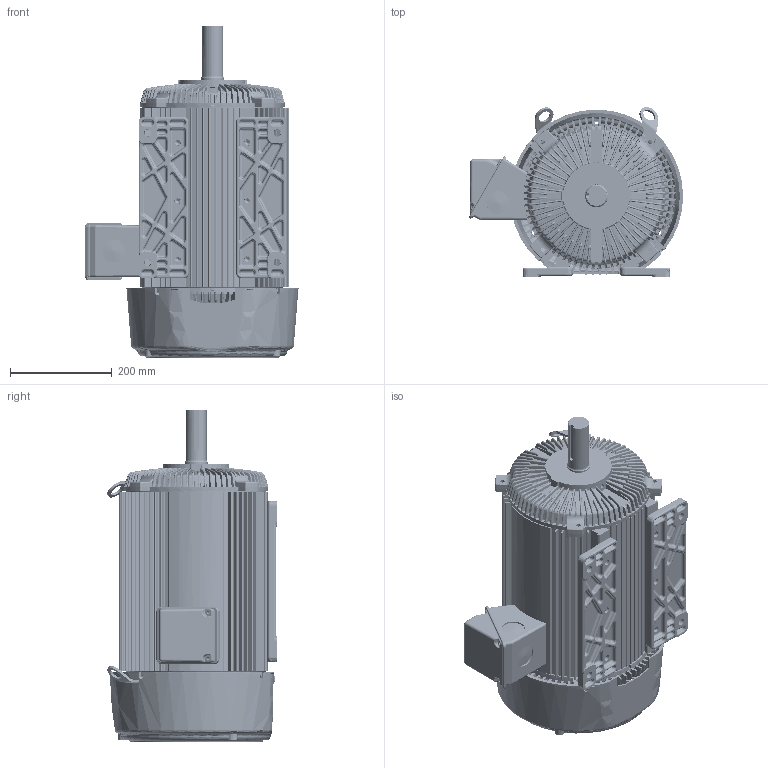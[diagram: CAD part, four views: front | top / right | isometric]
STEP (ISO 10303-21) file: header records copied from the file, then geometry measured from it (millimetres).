
FILE_DESCRIPTION((''),'2;1');
FILE_NAME('STD_SHORT_NON_FLNG_ASM','2014-07-01T',('emd2341'),('Nidec Motor Corporation'),'PRO/ENGINEER BY PARAMETRIC TECHNOLOGY CORPORATION, 2013150','PRO/ENGINEER BY PARAMETRIC TECHNOLOGY CORPORATION, 2013150','');
FILE_SCHEMA(('CONFIG_CONTROL_DESIGN'));
Length unit declared in the file: inch
Products named in the file (16): 0375096_AF0; 0375099-BKT_AF0; 0360239_AF0; 0375600_ASM; 0375097-BKT_AF0; 0362224_AF0; 0375098_ASM; 0172877; 0364285; 0417045; 0369733; 0362103; 0362104; 0364229-OBB; 0364236; STD_SHORT_NON_FLNG_ASM
Assembly tree (16 placements, depth 3):
  STD_SHORT_NON_FLNG_ASM
    0375096_AF0
    0375600_ASM
      0375099-BKT_AF0
      0360239_AF0
    0375098_ASM
      0375097-BKT_AF0
      0362224_AF0
    0172877
    0364285
    0417045
    0369733  x2
    0362103
    0362104
    0364229-OBB
    0364236
Bounding box: 420.11 x 332.48 x 651.05 mm (x, y, z)
Volume: 7507409.9 mm3; surface area: 2526429.6 mm2
Topology: 16 solids, 16 shells, 7330 faces, 18351 edges, 11011 vertices
Faces by surface type: bspline 2458, plane 1797, cylinder 1216, cone 616, torus 605, extrusion 410, sphere 228
Entity records: 329889 total; most frequent: CARTESIAN_POINT 176193, ORIENTED_EDGE 36506, DIRECTION 24989, EDGE_CURVE 18253, VERTEX_POINT 10987, AXIS2_PLACEMENT_3D 9545, B_SPLINE_CURVE_WITH_KNOTS 8111, EDGE_LOOP 7540
